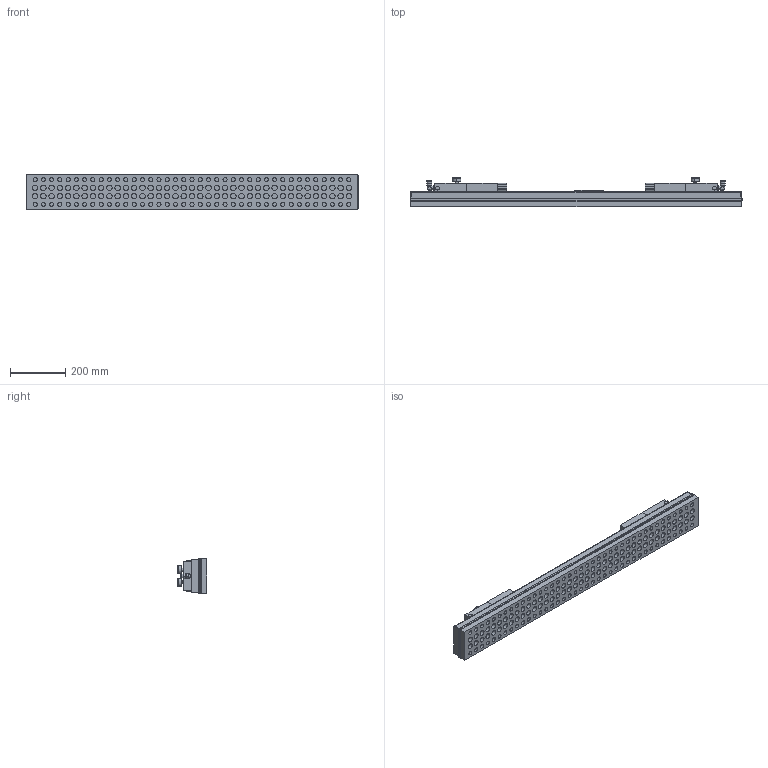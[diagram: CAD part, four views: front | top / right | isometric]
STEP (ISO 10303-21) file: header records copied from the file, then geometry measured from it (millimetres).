
FILE_DESCRIPTION (( 'STEP AP214' ), '1' );
FILE_NAME ('3-9-15221.STEP', '2012-09-13T06:52:19', ( 'cad' ), ( 'Microsoft' ), 'SwSTEP 2.0', 'SolidWorks 2012', '' );
FILE_SCHEMA (( 'AUTOMOTIVE_DESIGN' ));
Length unit declared in the file: millimetre
Products named in the file (1): 3-9-15221
Bounding box: 1206 x 107 x 126 mm (x, y, z)
Volume: 8938432 mm3; surface area: 765059.7 mm2
Topology: 1 solids, 1 shells, 1152 faces, 2612 edges, 1686 vertices
Faces by surface type: plane 560, cylinder 514, cone 76, sphere 2
Entity records: 43532 total; most frequent: DIRECTION 5974, CARTESIAN_POINT 5887, ORIENTED_EDGE 5224, EDGE_CURVE 2612, AXIS2_PLACEMENT_3D 2285, VERTEX_POINT 1686, LINE 1404, VECTOR 1404
